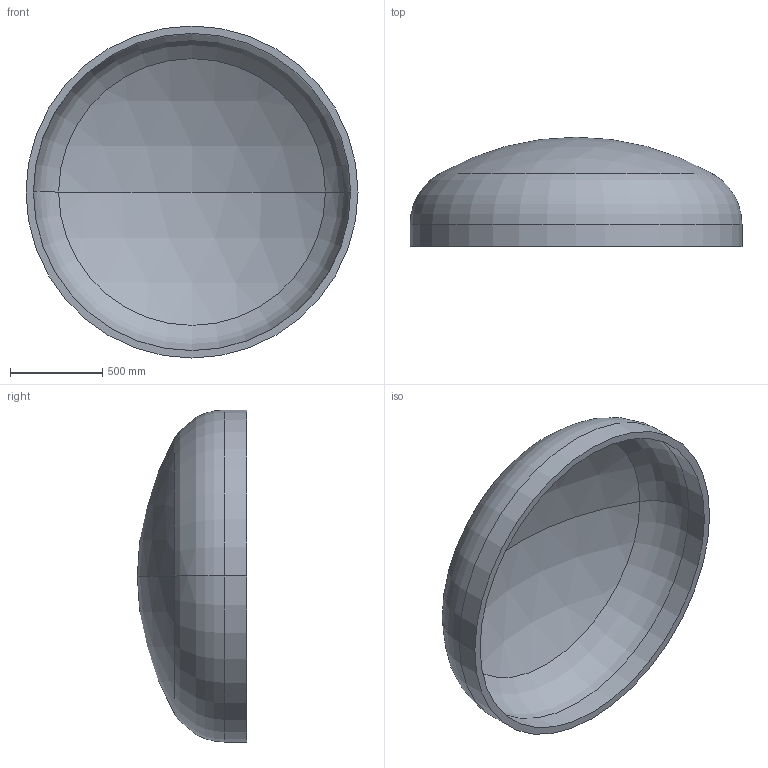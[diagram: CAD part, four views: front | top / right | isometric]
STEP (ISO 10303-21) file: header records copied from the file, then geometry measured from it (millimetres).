
FILE_DESCRIPTION (( 'STEP AP203' ), '1' );
FILE_NAME ('DIN 28013 Korbbogenform_-_Boden DIN 28013 - 1800 x 120 - I - s=40.step', '2016-07-01T12:29:44', ( '' ), ( '' ), 'SwSTEP 2.0', 'SolidWorks 2013', '' );
FILE_SCHEMA (( 'CONFIG_CONTROL_DESIGN' ));
Length unit declared in the file: millimetre
Products named in the file (1): DIN 28013 Korbbogenform_-_Boden DIN 28013 - 1800 x 120 - I - s=40
Bounding box: 1800 x 592.53 x 1800 mm (x, y, z)
Volume: 163240107.7 mm3; surface area: 8386522 mm2
Topology: 1 solids, 1 shells, 13 faces, 24 edges, 14 vertices
Faces by surface type: torus 4, cylinder 4, sphere 4, plane 1
Entity records: 407 total; most frequent: DIRECTION 72, CARTESIAN_POINT 52, ORIENTED_EDGE 48, AXIS2_PLACEMENT_3D 34, EDGE_CURVE 24, CIRCLE 20, VERTEX_POINT 14, EDGE_LOOP 14
